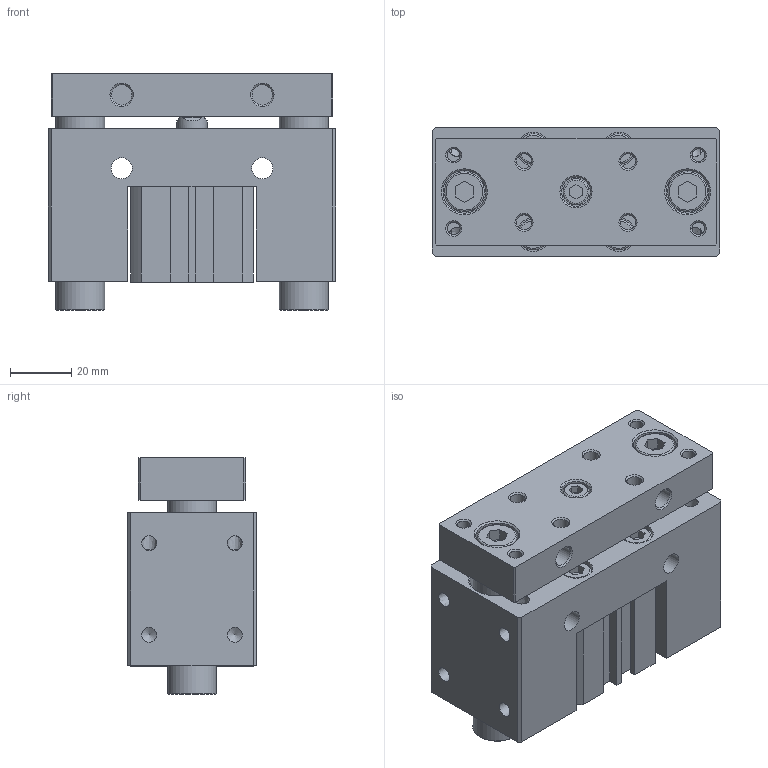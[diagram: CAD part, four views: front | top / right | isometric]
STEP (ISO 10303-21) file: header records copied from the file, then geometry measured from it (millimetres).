
FILE_DESCRIPTION((''),'2;1');
FILE_NAME('I:\3D電子目錄\氣缸\JCB\JCB\JCB25\JCB25x10.stp','2007-08-21T19:17:24',('Administrator'),(''),'Autodesk Inventor 11','Autodesk Inventor 11','');
FILE_SCHEMA(('AUTOMOTIVE_DESIGN { 1 0 10303 214 1 1 1 1 }'));
Length unit declared in the file: millimetre
Products named in the file (1): JCB25
Bounding box: 94 x 42 x 77.5 mm (x, y, z)
Volume: 213588.3 mm3; surface area: 65816.8 mm2
Topology: 5 solids, 5 shells, 323 faces, 740 edges, 483 vertices
Faces by surface type: plane 172, bspline 61, cylinder 47, cone 35, torus 8
Full cylindrical faces by diameter (mm): 1.5 x2, 4.917 x4, 5.1 x4, 6.647 x2, 8 x8, 8.5 x1, 10 x5, 11 x1, 13 x2, 16 x2, 17 x2, 18 x2, 28 x4, 29.4 x2
Entity records: 8980 total; most frequent: CARTESIAN_POINT 2309, DIRECTION 1332, ORIENTED_EDGE 1160, EDGE_CURVE 580, EDGE_LOOP 544, AXIS2_PLACEMENT_3D 493, VERTEX_POINT 454, VECTOR 346
